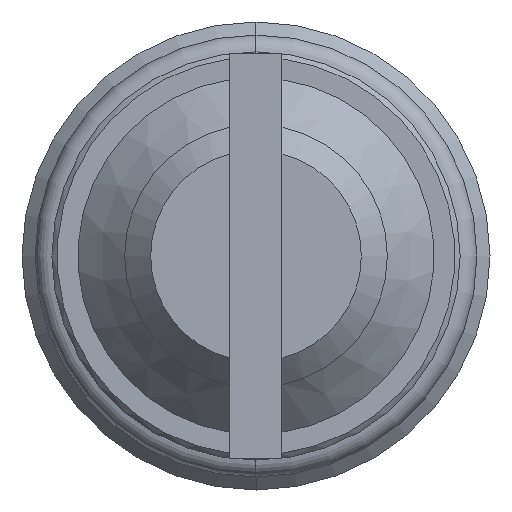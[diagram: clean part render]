
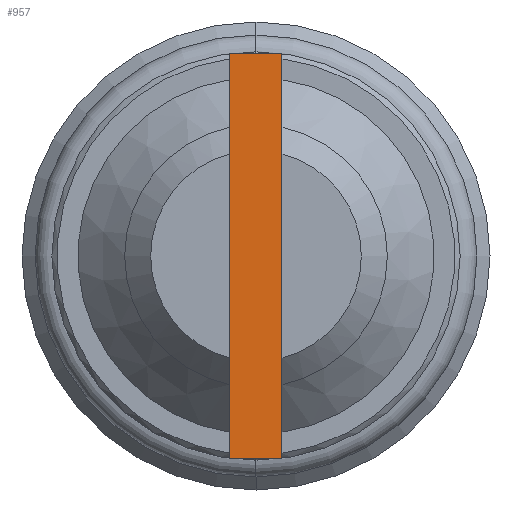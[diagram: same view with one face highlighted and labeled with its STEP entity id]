
A CAD part, left-side view. The second image highlights one B-rep face of the part: STEP entity #957.
In plain terms, the highlighted planar face has unit normal (-1, 0, 0).
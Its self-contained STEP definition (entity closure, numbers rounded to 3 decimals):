
#703 = EDGE_CURVE ( 'NONE', #704, #767, #1653, .T. ) ;
#704 = VERTEX_POINT ( 'NONE', #1645 ) ;
#736 = VERTEX_POINT ( 'NONE', #1605 ) ;
#767 = VERTEX_POINT ( 'NONE', #1692 ) ;
#801 = EDGE_CURVE ( 'NONE', #922, #704, #1674, .T. ) ;
#806 = EDGE_CURVE ( 'NONE', #767, #736, #1670, .T. ) ;
#922 = VERTEX_POINT ( 'NONE', #1865 ) ;
#924 = EDGE_CURVE ( 'NONE', #736, #922, #1864, .T. ) ;
#957 = ADVANCED_FACE ( 'NONE', ( #1914 ), #1913, .F. ) ;
#958 = EDGE_LOOP ( 'NONE', ( #959, #960, #961, #962 ) ) ;
#959 = ORIENTED_EDGE ( 'NONE', *, *, #703, .T. ) ;
#960 = ORIENTED_EDGE ( 'NONE', *, *, #806, .T. ) ;
#961 = ORIENTED_EDGE ( 'NONE', *, *, #924, .T. ) ;
#962 = ORIENTED_EDGE ( 'NONE', *, *, #801, .T. ) ;
#1605 = CARTESIAN_POINT ( 'NONE',  ( -209.295, -0.5, 3.9 ) ) ;
#1645 = CARTESIAN_POINT ( 'NONE',  ( -209.295, 0.5, -3.9 ) ) ;
#1646 = DIRECTION ( 'NONE',  ( 0., -1., 0. ) ) ;
#1647 = VECTOR ( 'NONE', #1646, 1000. ) ;
#1648 = CARTESIAN_POINT ( 'NONE',  ( -209.295, -0.5, -3.9 ) ) ;
#1653 = LINE ( 'NONE', #1648, #1647 ) ;
#1667 = DIRECTION ( 'NONE',  ( 0., 0., 1. ) ) ;
#1668 = VECTOR ( 'NONE', #1667, 1000. ) ;
#1669 = CARTESIAN_POINT ( 'NONE',  ( -209.295, -0.5, -3.9 ) ) ;
#1670 = LINE ( 'NONE', #1669, #1668 ) ;
#1671 = DIRECTION ( 'NONE',  ( 0., 0., -1. ) ) ;
#1672 = VECTOR ( 'NONE', #1671, 1000. ) ;
#1673 = CARTESIAN_POINT ( 'NONE',  ( -209.295, 0.5, -3.9 ) ) ;
#1674 = LINE ( 'NONE', #1673, #1672 ) ;
#1692 = CARTESIAN_POINT ( 'NONE',  ( -209.295, -0.5, -3.9 ) ) ;
#1861 = DIRECTION ( 'NONE',  ( 0., 1., 0. ) ) ;
#1862 = VECTOR ( 'NONE', #1861, 1000. ) ;
#1863 = CARTESIAN_POINT ( 'NONE',  ( -209.295, -0.5, 3.9 ) ) ;
#1864 = LINE ( 'NONE', #1863, #1862 ) ;
#1865 = CARTESIAN_POINT ( 'NONE',  ( -209.295, 0.5, 3.9 ) ) ;
#1909 = DIRECTION ( 'NONE',  ( 0., 0., -1. ) ) ;
#1910 = DIRECTION ( 'NONE',  ( 1., 0., 0. ) ) ;
#1911 = CARTESIAN_POINT ( 'NONE',  ( -209.295, 0.5, -3.9 ) ) ;
#1912 = AXIS2_PLACEMENT_3D ( 'NONE', #1911, #1910, #1909 ) ;
#1913 = PLANE ( 'NONE',  #1912 ) ;
#1914 = FACE_OUTER_BOUND ( 'NONE', #958, .T. ) ;
